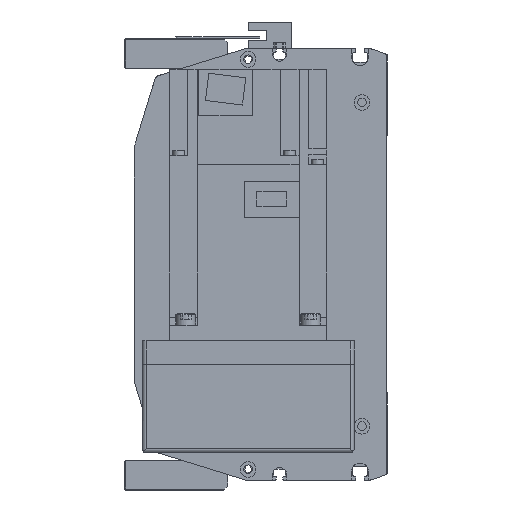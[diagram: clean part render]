
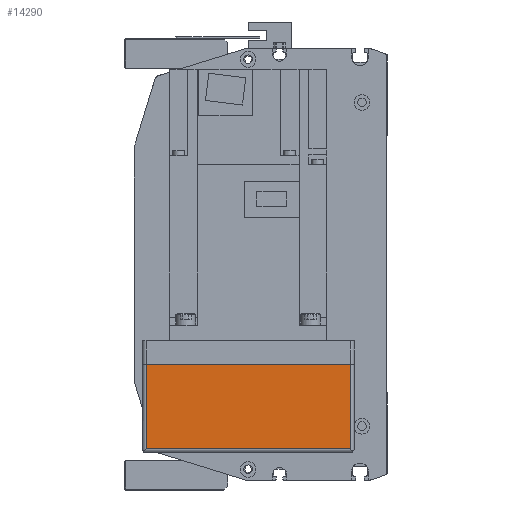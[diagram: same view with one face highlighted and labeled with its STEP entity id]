
A CAD part, left-side view. The second image highlights one B-rep face of the part: STEP entity #14290.
In plain terms, the highlighted planar face has unit normal (-1, 0, 0).
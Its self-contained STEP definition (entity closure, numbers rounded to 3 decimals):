
#2432=ORIENTED_EDGE('',*,*,#5828,.T.);
#2433=ORIENTED_EDGE('',*,*,#5756,.T.);
#2434=ORIENTED_EDGE('',*,*,#5829,.F.);
#2435=ORIENTED_EDGE('',*,*,#5768,.F.);
#5756=EDGE_CURVE('',#7600,#7603,#9082,.T.);
#5768=EDGE_CURVE('',#7610,#7612,#9087,.T.);
#5828=EDGE_CURVE('',#7610,#7600,#9129,.T.);
#5829=EDGE_CURVE('',#7612,#7603,#9130,.T.);
#7600=VERTEX_POINT('',#22201);
#7603=VERTEX_POINT('',#22207);
#7610=VERTEX_POINT('',#22230);
#7612=VERTEX_POINT('',#22233);
#9082=LINE('',#22208,#10425);
#9087=LINE('',#22232,#10430);
#9129=LINE('',#22356,#10472);
#9130=LINE('',#22357,#10473);
#10425=VECTOR('',#17743,1000.);
#10430=VECTOR('',#17770,1000.);
#10472=VECTOR('',#17890,1000.);
#10473=VECTOR('',#17891,1000.);
#11625=EDGE_LOOP('',(#2432,#2433,#2434,#2435));
#12728=FACE_BOUND('',#11625,.T.);
#13669=PLANE('',#15343);
#14290=ADVANCED_FACE('',(#12728),#13669,.T.);
#15343=AXIS2_PLACEMENT_3D('',#22355,#17888,#17889);
#17743=DIRECTION('',(0.,0.,1.));
#17770=DIRECTION('',(0.,0.,1.));
#17888=DIRECTION('',(-1.,0.,0.));
#17889=DIRECTION('',(0.,0.,1.));
#17890=DIRECTION('',(0.,-1.,0.));
#17891=DIRECTION('',(0.,-1.,0.));
#22201=CARTESIAN_POINT('',(-230.,-52.,-55.));
#22207=CARTESIAN_POINT('',(-230.,-52.,-12.));
#22208=CARTESIAN_POINT('',(-230.,-52.,-57.));
#22230=CARTESIAN_POINT('',(-230.,52.,-55.));
#22232=CARTESIAN_POINT('',(-230.,52.,-57.));
#22233=CARTESIAN_POINT('',(-230.,52.,-12.));
#22355=CARTESIAN_POINT('',(-230.,52.,-57.));
#22356=CARTESIAN_POINT('',(-230.,54.,-55.));
#22357=CARTESIAN_POINT('',(-230.,52.,-12.));
